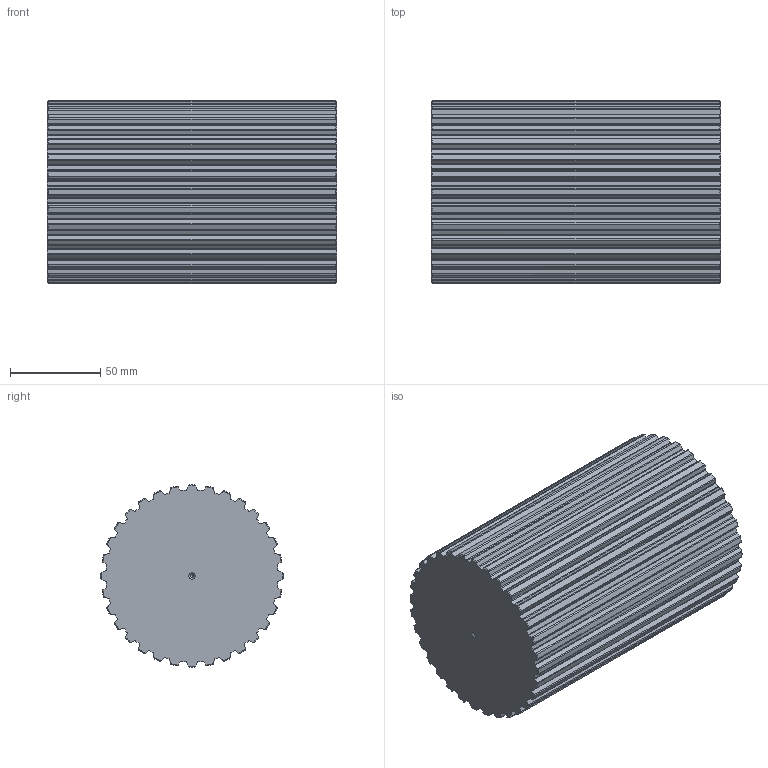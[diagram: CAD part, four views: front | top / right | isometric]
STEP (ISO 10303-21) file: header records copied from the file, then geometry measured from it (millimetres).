
FILE_DESCRIPTION(('STEP AP214'),'1');
FILE_NAME('bart_32.stp','2018-04-18T13:56:43',('TraceParts'),('TraceParts S.A.'),'Spatial InterOp 3D',' ',' ');
FILE_SCHEMA(('automotive_design'));
Length unit declared in the file: millimetre
Products named in the file (1): bart_32
Bounding box: 160 x 100.85 x 100.84 mm (x, y, z)
Volume: 1211722.2 mm3; surface area: 80425.8 mm2
Topology: 1 solids, 1 shells, 338 faces, 1000 edges, 662 vertices
Faces by surface type: cylinder 196, cone 76, plane 66
Entity records: 11879 total; most frequent: CARTESIAN_POINT 3149, ORIENTED_EDGE 1992, DIRECTION 1758, EDGE_CURVE 996, AXIS2_PLACEMENT_3D 679, VERTEX_POINT 662, LINE 400, VECTOR 400
